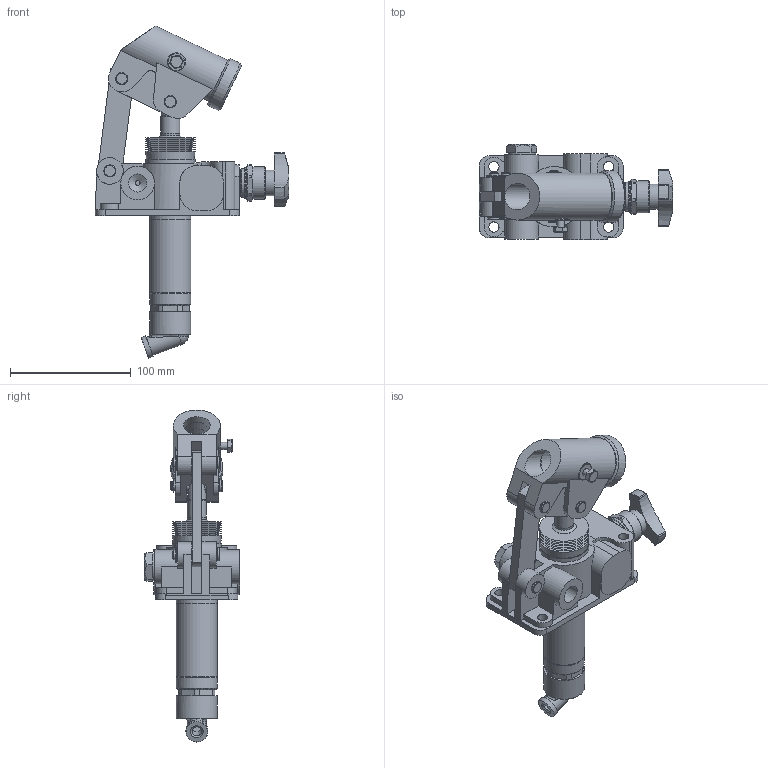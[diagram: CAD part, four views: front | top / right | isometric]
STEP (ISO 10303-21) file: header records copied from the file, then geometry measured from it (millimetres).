
FILE_DESCRIPTION(/* description */ ('Unknown'),/* implementation_level */ '2;1');
FILE_NAME(/* name */ 'HPT-S',/* time_stamp */ '2024-11-28T11:31:22+01:00',/* author */ ('Unknown'),/* organization */ ('Unknown'),/* preprocessor_version */ 'ST-DEVELOPER v19.4',/* originating_system */ 'Solid Edge',/* authorisation */ 'Unknown');
FILE_SCHEMA (('AUTOMOTIVE_DESIGN {1 0 10303 214 3 1 1}'));
Length unit declared in the file: millimetre
Products named in the file (1): HPT-S
Bounding box: 160 x 79 x 274.93 mm (x, y, z)
Volume: 506923.2 mm3; surface area: 134365.9 mm2
Topology: 9 solids, 9 shells, 2206 faces, 6067 edges, 3922 vertices
Faces by surface type: plane 1818, cylinder 261, cone 82, torus 27, bspline 14, sphere 4
Full cylindrical faces by diameter (mm): 4 x3, 5 x1, 5.1 x1, 5.994 x5, 7 x1, 7.792 x6, 8 x5, 8.092 x6, 8.1 x1, 8.376 x2, 8.5 x5, 9.99 x3, 10 x1, 11 x2, 13.7 x1, 14.5 x1, 14.95 x6, 15.3 x1, 15.8 x1, 16 x1, 17 x3, 18 x2, 20 x2, 21 x1, 21.978 x1, 22 x2, 23 x4, 24 x2, 25 x3, 25.3 x1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
Entity records: 84165 total; most frequent: CARTESIAN_POINT 13666, ORIENTED_EDGE 11572, DIRECTION 10980, EDGE_CURVE 5786, LINE 4748, VECTOR 4748, VERTEX_POINT 3825, AXIS2_PLACEMENT_3D 3116
